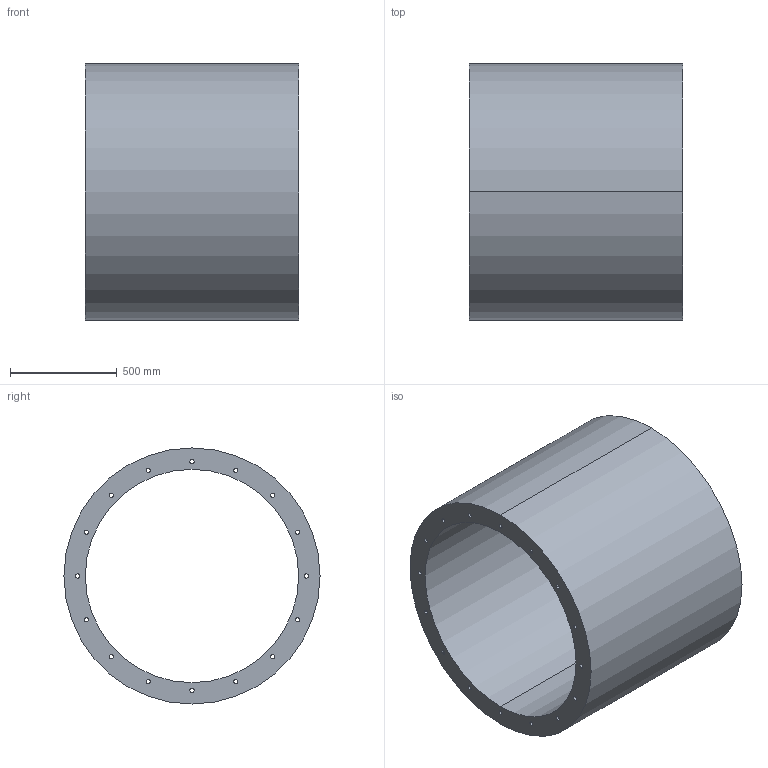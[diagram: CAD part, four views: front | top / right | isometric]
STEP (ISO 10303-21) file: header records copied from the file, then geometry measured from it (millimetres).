
FILE_DESCRIPTION(('STEP AP214'),'1');
FILE_NAME('accessory_5211812600.stp','2017-10-09T11:37:18',('TraceParts'),('TraceParts S.A.'),'Spatial InterOp 3D',' ',' ');
FILE_SCHEMA(('automotive_design'));
Length unit declared in the file: millimetre
Products named in the file (1): accessory_5211812600
Bounding box: 1000 x 1200 x 1200 mm (x, y, z)
Volume: 340548643.6 mm3; surface area: 8597910.8 mm2
Topology: 1 solids, 1 shells, 38 faces, 108 edges, 72 vertices
Faces by surface type: cylinder 36, plane 2
Entity records: 1672 total; most frequent: DIRECTION 258, CARTESIAN_POINT 219, ORIENTED_EDGE 216, AXIS2_PLACEMENT_3D 111, EDGE_CURVE 108, EDGE_LOOP 72, VERTEX_POINT 72, CIRCLE 72
